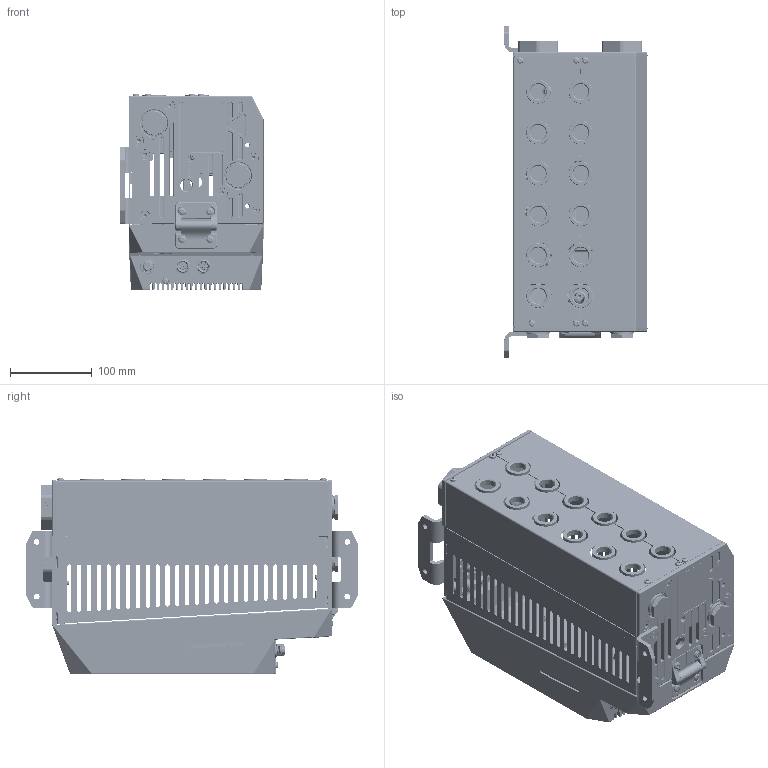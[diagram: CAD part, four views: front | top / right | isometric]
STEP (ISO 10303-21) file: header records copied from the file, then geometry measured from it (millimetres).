
FILE_DESCRIPTION (( 'STEP AP214' ), '1' );
FILE_NAME ('HB-FX1XXR61-6.STEP', '2026-03-02T08:54:41', ( '' ), ( '' ), 'SwSTEP 2.0', 'SolidWorks 2023', '' );
FILE_SCHEMA (( 'AUTOMOTIVE_DESIGN' ));
Length unit declared in the file: millimetre
Products named in the file (21): Kopie von 29827^Kopie von K8534-Hülle Teil2_K8534-Hülle kompl; Kopie von 29811-X^Kopie von K8534-Hülle Teil3_K8534-Hülle kompl_01-mit Beschriftung; KX508-2_1^Kopie von 28706_Kopie von K8534-Hülle Teil2_K8534-Hülle kompl; Kopie von 29734-X^Kopie von K8534-Hülle Teil3_K8534-Hülle kompl_00; Kopie von 29793-X^Kopie von K8534-Hülle Teil2_K8534-Hülle kompl_29793-1; Kopie von 28706^Kopie von K8534-Hülle Teil2_K8534-Hülle kompl_180°; Kopie von Kopie von 29730^Kopie von K8534-Hülle Teil2_K8534-Hülle kompl_00; Kopie von K8534-Hülle RECHTS^Kopie von K8534-Hülle Teil3_K8534-Hülle kompl_6-FACH RECHTS; KX508-2_3^Kopie von 28706_Kopie von K8534-Hülle Teil2_K8534-Hülle kompl; Kopie von 29730^Kopie von K8534-Hülle Teil3_K8534-Hülle kompl_00; Kopie (2) von B3061620^Kopie von K8534-Hülle Teil2_K8534-Hülle kompl_M4x12; Kopie von K8534-Hülle Teil2^K8534-Hülle kompl_6-Fach HB-Therm; Kopie von 29733-X^Kopie von K8534-Hülle Teil2_K8534-Hülle kompl; Kopie von 28862^Kopie von K8534-Hülle Teil2_K8534-Hülle kompl_M5x12; Kopie von 29822-X^Kopie von K8534-Hülle Teil3_K8534-Hülle kompl_00; Kopie von K8534-Hülle Teil3^K8534-Hülle kompl_6-FACH-RECHTS HB-Therm; KX508-2_2^Kopie von 28706_Kopie von K8534-Hülle Teil2_K8534-Hülle kompl; Kopie von Kopie von 24568^Kopie von K8534-Hülle Teil3_K8534-Hülle kompl_00; HB-FX1XXR61-6; Kopie von 29817-X^Kopie von K8534-Hülle Teil3_K8534-Hülle kompl_01-mit Beschriftung; Kopie von 29714^Kopie von K8534-Hülle Teil2_K8534-Hülle kompl
Assembly tree (30 placements, depth 4):
  HB-FX1XXR61-6
    Kopie von K8534-Hülle Teil3^K8534-Hülle kompl_6-FACH-RECHTS HB-Therm
      Kopie von 29734-X^Kopie von K8534-Hülle Teil3_K8534-Hülle kompl_00  x2
      Kopie von 29730^Kopie von K8534-Hülle Teil3_K8534-Hülle kompl_00  x4
      Kopie von K8534-Hülle RECHTS^Kopie von K8534-Hülle Teil3_K8534-Hülle kompl_6-FACH RECHTS
      Kopie von 29811-X^Kopie von K8534-Hülle Teil3_K8534-Hülle kompl_01-mit Beschriftung
      Kopie von 29817-X^Kopie von K8534-Hülle Teil3_K8534-Hülle kompl_01-mit Beschriftung
      Kopie von 29822-X^Kopie von K8534-Hülle Teil3_K8534-Hülle kompl_00
      Kopie von Kopie von 24568^Kopie von K8534-Hülle Teil3_K8534-Hülle kompl_00  x2
    Kopie von K8534-Hülle Teil2^K8534-Hülle kompl_6-Fach HB-Therm
      Kopie von 29827^Kopie von K8534-Hülle Teil2_K8534-Hülle kompl  x2
      Kopie von 29714^Kopie von K8534-Hülle Teil2_K8534-Hülle kompl
      Kopie von 28862^Kopie von K8534-Hülle Teil2_K8534-Hülle kompl_M5x12  x4
      Kopie von 28706^Kopie von K8534-Hülle Teil2_K8534-Hülle kompl_180°
        KX508-2_1^Kopie von 28706_Kopie von K8534-Hülle Teil2_K8534-Hülle kompl
        KX508-2_2^Kopie von 28706_Kopie von K8534-Hülle Teil2_K8534-Hülle kompl
        KX508-2_3^Kopie von 28706_Kopie von K8534-Hülle Teil2_K8534-Hülle kompl
      Kopie von 29793-X^Kopie von K8534-Hülle Teil2_K8534-Hülle kompl_29793-1
      Kopie von Kopie von 29730^Kopie von K8534-Hülle Teil2_K8534-Hülle kompl_00  x2
      Kopie von 29733-X^Kopie von K8534-Hülle Teil2_K8534-Hülle kompl
      Kopie (2) von B3061620^Kopie von K8534-Hülle Teil2_K8534-Hülle kompl_M4x12
Bounding box: 175 x 406 x 239.82 mm (x, y, z)
Volume: 1357225.3 mm3; surface area: 867441 mm2
Topology: 101 solids, 102 shells, 7494 faces, 18302 edges, 11125 vertices
Faces by surface type: plane 2476, cylinder 2246, bspline 1037, torus 741, cone 722, sphere 272
Full cylindrical faces by diameter (mm): 2.5 x13, 3.3 x24, 3.6 x1, 4 x14, 4.2 x5, 4.5 x6, 4.6 x1, 4.9 x6, 5 x36, 5.2 x4, 6 x14, 6.6 x12, 6.8 x2, 7 x18, 7.8 x2, 8.3 x1, 8.4 x4, 9.4 x1, 10 x1, 10.2 x1, 10.3 x1, 10.55 x1, 10.8 x2, 12 x26, 12.1 x10, 14.5 x3, 18.4 x2, 19 x15, 20.96 x2, 26.6 x2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
Entity records: 334218 total; most frequent: CARTESIAN_POINT 95282, ORIENTED_EDGE 33490, DIRECTION 32078, EDGE_CURVE 16745, AXIS2_PLACEMENT_3D 12244, VERTEX_POINT 10528, EDGE_LOOP 8451, VECTOR 7590
